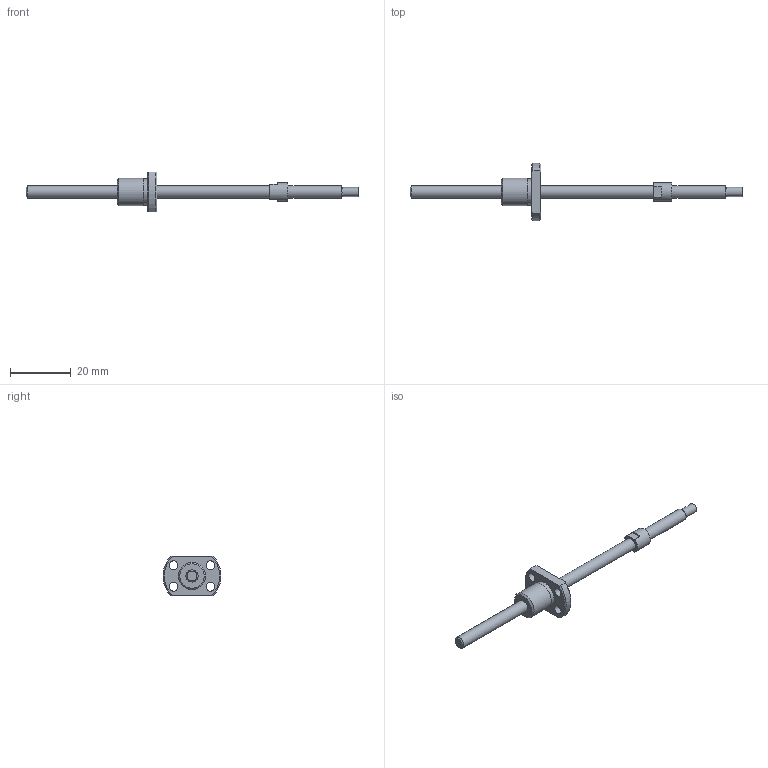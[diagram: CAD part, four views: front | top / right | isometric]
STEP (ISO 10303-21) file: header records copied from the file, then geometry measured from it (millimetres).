
FILE_DESCRIPTION(/* description */ ('STEP AP214'),/* implementation_level */ '2;1');
FILE_NAME(/* name */ 'SRT0401K-76R109C10A0X(A30Processing0X)',/* time_stamp */ '2026-08-04T17:46:59+02:00',/* author */ ('License CC BY-ND 4.0'),/* organization */ ('CADENAS'),/* preprocessor_version */ 'ST-DEVELOPER v20',/* originating_system */ 'PARTsolutions',/* authorisation */ ' ');
FILE_SCHEMA (('AUTOMOTIVE_DESIGN {1 0 10303 214 3 1 1}'));
Length unit declared in the file: millimetre
Products named in the file (3): SRT0401K-76R109C10A0X(A30Processing0X); 2AProcessing109; SR0401K_nut
Assembly tree (2 placements, depth 2):
  SRT0401K-76R109C10A0X(A30Processing0X)
    2AProcessing109
    SR0401K_nut
Bounding box: 109 x 18.93 x 13 mm (x, y, z)
Volume: 2484.8 mm3; surface area: 2526.4 mm2
Topology: 2 solids, 2 shells, 35 faces, 75 edges, 49 vertices
Faces by surface type: plane 15, cylinder 13, cone 7
Full cylindrical faces by diameter (mm): 2.9 x4, 3 x1, 4 x3, 6 x1, 8.6 x1, 9 x1
Entity records: 985 total; most frequent: CARTESIAN_POINT 170, DIRECTION 164, ORIENTED_EDGE 120, AXIS2_PLACEMENT_3D 74, EDGE_LOOP 64, FACE_BOUND 64, EDGE_CURVE 60, VERTEX_POINT 48
